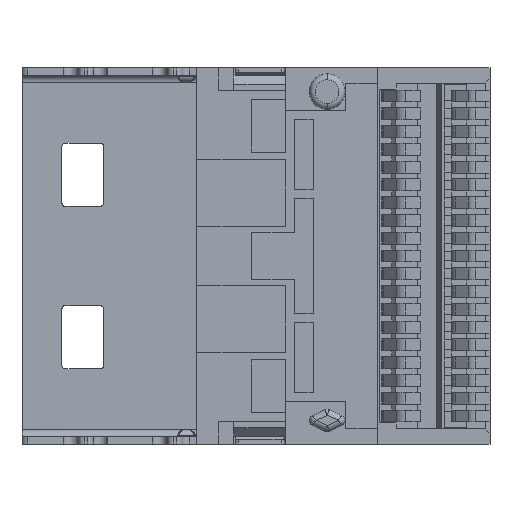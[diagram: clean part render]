
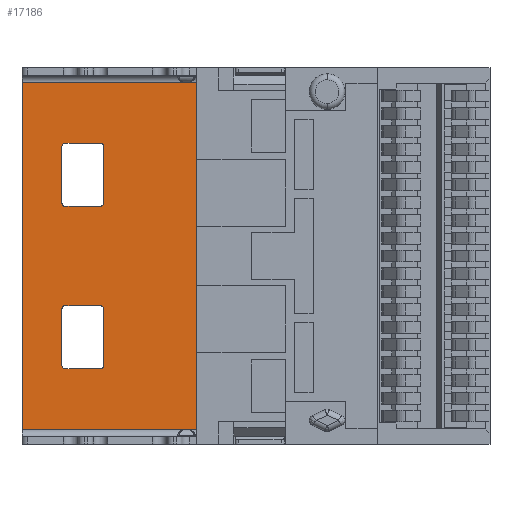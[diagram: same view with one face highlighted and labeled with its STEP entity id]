
A CAD part, front view. The second image highlights one B-rep face of the part: STEP entity #17186.
In plain terms, the highlighted planar face has unit normal (0, -1, 0).
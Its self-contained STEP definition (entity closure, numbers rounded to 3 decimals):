
#15=DIRECTION('',(0.,0.,1.));
#16=VECTOR('',#15,11.7);
#17=CARTESIAN_POINT('',(-5.9,6.35,-5.85));
#18=LINE('',#17,#16);
#19=CARTESIAN_POINT('',(-4.45,6.35,1.775));
#20=DIRECTION('',(0.,-1.,0.));
#21=DIRECTION('',(-1.,0.,0.));
#22=AXIS2_PLACEMENT_3D('',#19,#20,#21);
#24=CARTESIAN_POINT('',(-3.25,6.35,1.775));
#25=DIRECTION('',(0.,-1.,0.));
#26=DIRECTION('',(0.,0.,-1.));
#27=AXIS2_PLACEMENT_3D('',#24,#25,#26);
#29=CARTESIAN_POINT('',(-3.25,6.35,3.705));
#30=DIRECTION('',(0.,-1.,0.));
#31=DIRECTION('',(1.,0.,0.));
#32=AXIS2_PLACEMENT_3D('',#29,#30,#31);
#34=CARTESIAN_POINT('',(-4.45,6.35,3.705));
#35=DIRECTION('',(0.,-1.,0.));
#36=DIRECTION('',(0.,0.,1.));
#37=AXIS2_PLACEMENT_3D('',#34,#35,#36);
#39=CARTESIAN_POINT('',(-3.25,6.35,-1.775));
#40=DIRECTION('',(0.,-1.,0.));
#41=DIRECTION('',(1.,0.,0.));
#42=AXIS2_PLACEMENT_3D('',#39,#40,#41);
#44=CARTESIAN_POINT('',(-4.45,6.35,-1.775));
#45=DIRECTION('',(0.,-1.,0.));
#46=DIRECTION('',(0.,0.,1.));
#47=AXIS2_PLACEMENT_3D('',#44,#45,#46);
#49=CARTESIAN_POINT('',(-4.45,6.35,-3.705));
#50=DIRECTION('',(0.,-1.,0.));
#51=DIRECTION('',(-1.,0.,0.));
#52=AXIS2_PLACEMENT_3D('',#49,#50,#51);
#54=CARTESIAN_POINT('',(-3.25,6.35,-3.705));
#55=DIRECTION('',(0.,-1.,0.));
#56=DIRECTION('',(0.,0.,-1.));
#57=AXIS2_PLACEMENT_3D('',#54,#55,#56);
#95=DIRECTION('',(1.,0.,0.));
#96=VECTOR('',#95,6.05);
#97=CARTESIAN_POINT('',(-5.9,6.35,-5.85));
#98=LINE('',#97,#96);
#776=DIRECTION('',(-1.,0.,0.));
#777=VECTOR('',#776,6.05);
#778=CARTESIAN_POINT('',(0.15,6.35,5.85));
#779=LINE('',#778,#777);
#1422=DIRECTION('',(0.,0.,1.));
#1423=VECTOR('',#1422,11.7);
#1424=CARTESIAN_POINT('',(0.15,6.35,-5.85));
#1425=LINE('',#1424,#1423);
#13068=DIRECTION('',(1.,0.,0.));
#13069=VECTOR('',#13068,1.2);
#13070=CARTESIAN_POINT('',(-4.45,6.35,3.805));
#13071=LINE('',#13070,#13069);
#13084=DIRECTION('',(0.,0.,1.));
#13085=VECTOR('',#13084,1.93);
#13086=CARTESIAN_POINT('',(-4.55,6.35,1.775));
#13087=LINE('',#13086,#13085);
#13104=DIRECTION('',(-1.,0.,0.));
#13105=VECTOR('',#13104,1.2);
#13106=CARTESIAN_POINT('',(-3.25,6.35,1.675));
#13107=LINE('',#13106,#13105);
#13116=DIRECTION('',(0.,0.,-1.));
#13117=VECTOR('',#13116,1.93);
#13118=CARTESIAN_POINT('',(-3.15,6.35,3.705));
#13119=LINE('',#13118,#13117);
#13132=DIRECTION('',(-1.,0.,0.));
#13133=VECTOR('',#13132,1.2);
#13134=CARTESIAN_POINT('',(-3.25,6.35,-3.805));
#13135=LINE('',#13134,#13133);
#13152=DIRECTION('',(0.,0.,-1.));
#13153=VECTOR('',#13152,1.93);
#13154=CARTESIAN_POINT('',(-3.15,6.35,-1.775));
#13155=LINE('',#13154,#13153);
#13164=DIRECTION('',(1.,0.,0.));
#13165=VECTOR('',#13164,1.2);
#13166=CARTESIAN_POINT('',(-4.45,6.35,-1.675));
#13167=LINE('',#13166,#13165);
#13180=DIRECTION('',(0.,0.,1.));
#13181=VECTOR('',#13180,1.93);
#13182=CARTESIAN_POINT('',(-4.55,6.35,-3.705));
#13183=LINE('',#13182,#13181);
#13188=CARTESIAN_POINT('',(-5.9,6.35,-5.85));
#13189=CARTESIAN_POINT('',(-5.9,6.35,5.85));
#13190=VERTEX_POINT('',#13188);
#13191=VERTEX_POINT('',#13189);
#13192=CARTESIAN_POINT('',(0.15,6.35,5.85));
#13193=VERTEX_POINT('',#13192);
#13194=CARTESIAN_POINT('',(0.15,6.35,-5.85));
#13195=VERTEX_POINT('',#13194);
#13196=CARTESIAN_POINT('',(-4.55,6.35,1.775));
#13197=CARTESIAN_POINT('',(-4.45,6.35,1.675));
#13198=VERTEX_POINT('',#13196);
#13199=VERTEX_POINT('',#13197);
#13200=CARTESIAN_POINT('',(-3.25,6.35,1.675));
#13201=VERTEX_POINT('',#13200);
#13202=CARTESIAN_POINT('',(-3.15,6.35,1.775));
#13203=VERTEX_POINT('',#13202);
#13204=CARTESIAN_POINT('',(-3.15,6.35,3.705));
#13205=VERTEX_POINT('',#13204);
#13206=CARTESIAN_POINT('',(-3.25,6.35,3.805));
#13207=VERTEX_POINT('',#13206);
#13208=CARTESIAN_POINT('',(-4.45,6.35,3.805));
#13209=VERTEX_POINT('',#13208);
#13210=CARTESIAN_POINT('',(-4.55,6.35,3.705));
#13211=VERTEX_POINT('',#13210);
#13212=CARTESIAN_POINT('',(-3.15,6.35,-1.775));
#13213=CARTESIAN_POINT('',(-3.25,6.35,-1.675));
#13214=VERTEX_POINT('',#13212);
#13215=VERTEX_POINT('',#13213);
#13216=CARTESIAN_POINT('',(-4.45,6.35,-1.675));
#13217=VERTEX_POINT('',#13216);
#13218=CARTESIAN_POINT('',(-4.55,6.35,-1.775));
#13219=VERTEX_POINT('',#13218);
#13220=CARTESIAN_POINT('',(-4.55,6.35,-3.705));
#13221=VERTEX_POINT('',#13220);
#13222=CARTESIAN_POINT('',(-4.45,6.35,-3.805));
#13223=VERTEX_POINT('',#13222);
#13224=CARTESIAN_POINT('',(-3.25,6.35,-3.805));
#13225=VERTEX_POINT('',#13224);
#13226=CARTESIAN_POINT('',(-3.15,6.35,-3.705));
#13227=VERTEX_POINT('',#13226);
#17135=CARTESIAN_POINT('',(-2.875,6.35,0.));
#17136=DIRECTION('',(0.,1.,0.));
#17137=DIRECTION('',(0.,0.,-1.));
#17138=AXIS2_PLACEMENT_3D('',#17135,#17136,#17137);
#17139=PLANE('',#17138);
#17141=ORIENTED_EDGE('',*,*,#17140,.T.);
#17143=ORIENTED_EDGE('',*,*,#17142,.F.);
#17145=ORIENTED_EDGE('',*,*,#17144,.F.);
#17147=ORIENTED_EDGE('',*,*,#17146,.F.);
#17148=EDGE_LOOP('',(#17141,#17143,#17145,#17147));
#17149=FACE_OUTER_BOUND('',#17148,.F.);
#17151=ORIENTED_EDGE('',*,*,#17150,.T.);
#17153=ORIENTED_EDGE('',*,*,#17152,.F.);
#17155=ORIENTED_EDGE('',*,*,#17154,.T.);
#17157=ORIENTED_EDGE('',*,*,#17156,.F.);
#17159=ORIENTED_EDGE('',*,*,#17158,.T.);
#17161=ORIENTED_EDGE('',*,*,#17160,.F.);
#17163=ORIENTED_EDGE('',*,*,#17162,.T.);
#17165=ORIENTED_EDGE('',*,*,#17164,.F.);
#17166=EDGE_LOOP('',(#17151,#17153,#17155,#17157,#17159,#17161,#17163,#17165));
#17167=FACE_BOUND('',#17166,.F.);
#17169=ORIENTED_EDGE('',*,*,#17168,.T.);
#17171=ORIENTED_EDGE('',*,*,#17170,.F.);
#17173=ORIENTED_EDGE('',*,*,#17172,.T.);
#17175=ORIENTED_EDGE('',*,*,#17174,.F.);
#17177=ORIENTED_EDGE('',*,*,#17176,.T.);
#17179=ORIENTED_EDGE('',*,*,#17178,.F.);
#17181=ORIENTED_EDGE('',*,*,#17180,.T.);
#17183=ORIENTED_EDGE('',*,*,#17182,.F.);
#17184=EDGE_LOOP('',(#17169,#17171,#17173,#17175,#17177,#17179,#17181,#17183));
#17185=FACE_BOUND('',#17184,.F.);
#23=CIRCLE('',#22,0.1);
#28=CIRCLE('',#27,0.1);
#33=CIRCLE('',#32,0.1);
#38=CIRCLE('',#37,0.1);
#43=CIRCLE('',#42,0.1);
#48=CIRCLE('',#47,0.1);
#53=CIRCLE('',#52,0.1);
#58=CIRCLE('',#57,0.1);
#17140=EDGE_CURVE('',#13190,#13191,#18,.T.);
#17142=EDGE_CURVE('',#13193,#13191,#779,.T.);
#17144=EDGE_CURVE('',#13195,#13193,#1425,.T.);
#17146=EDGE_CURVE('',#13190,#13195,#98,.T.);
#17150=EDGE_CURVE('',#13198,#13199,#23,.T.);
#17152=EDGE_CURVE('',#13201,#13199,#13107,.T.);
#17154=EDGE_CURVE('',#13201,#13203,#28,.T.);
#17156=EDGE_CURVE('',#13205,#13203,#13119,.T.);
#17158=EDGE_CURVE('',#13205,#13207,#33,.T.);
#17160=EDGE_CURVE('',#13209,#13207,#13071,.T.);
#17162=EDGE_CURVE('',#13209,#13211,#38,.T.);
#17164=EDGE_CURVE('',#13198,#13211,#13087,.T.);
#17168=EDGE_CURVE('',#13214,#13215,#43,.T.);
#17170=EDGE_CURVE('',#13217,#13215,#13167,.T.);
#17172=EDGE_CURVE('',#13217,#13219,#48,.T.);
#17174=EDGE_CURVE('',#13221,#13219,#13183,.T.);
#17176=EDGE_CURVE('',#13221,#13223,#53,.T.);
#17178=EDGE_CURVE('',#13225,#13223,#13135,.T.);
#17180=EDGE_CURVE('',#13225,#13227,#58,.T.);
#17182=EDGE_CURVE('',#13214,#13227,#13155,.T.);
#17186=ADVANCED_FACE('',(#17149,#17167,#17185),#17139,.F.);
